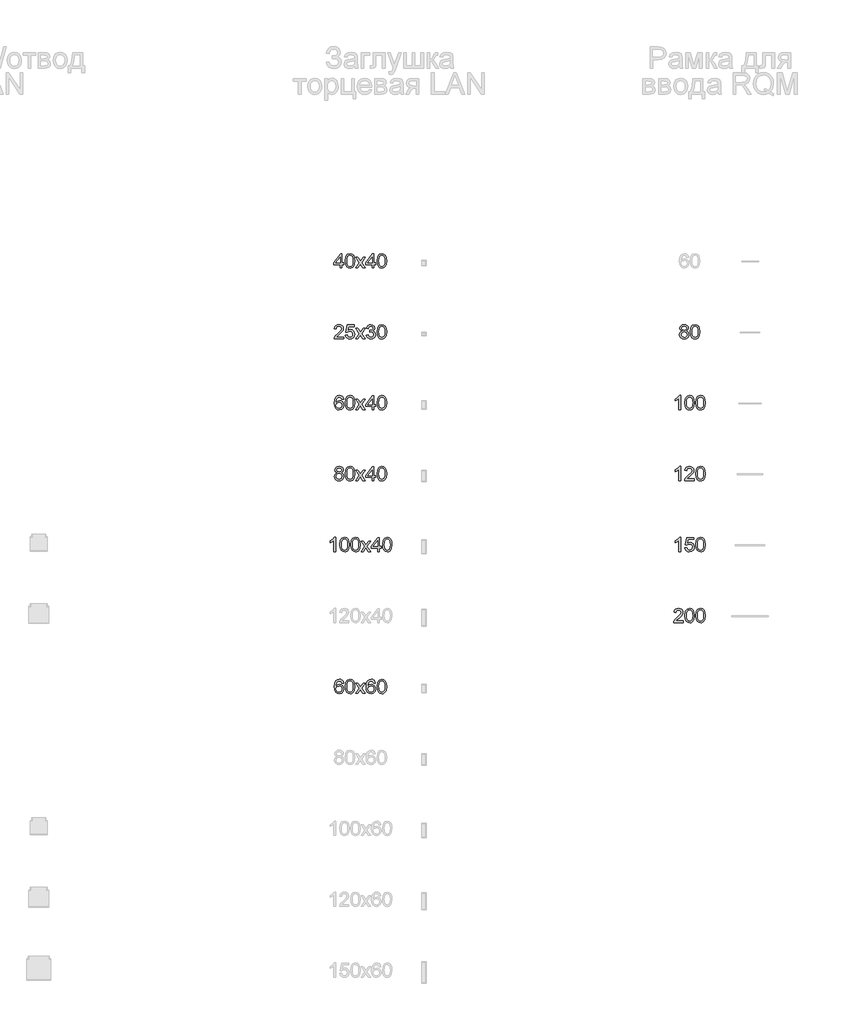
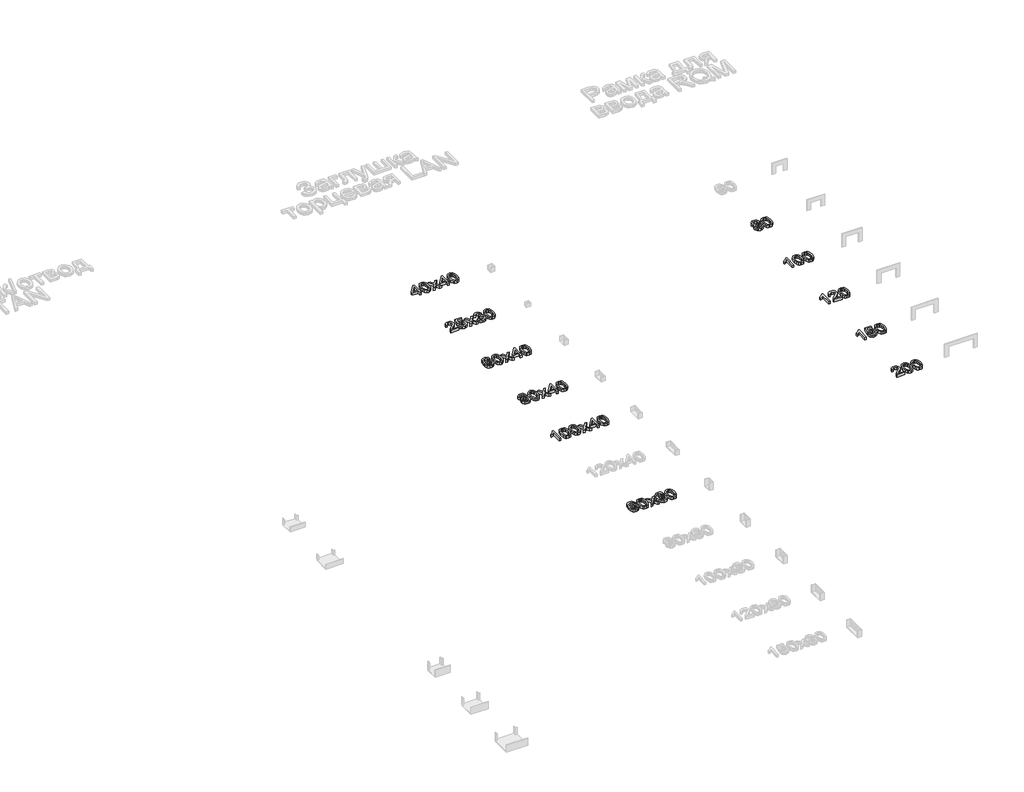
# One storey, part 27 of 28: 11 proxies.
"""IFC4 building model written with IfcOpenShell, lengths in millimetres."""

from ifc_helpers import new_model, si_unit, origin, origin_with_axes, place, context, project, spatial, polyline, outline, extrude, element, save

model = new_model("IFC4")

# Units and contexts
model_context = context("Model", 3, world=origin())
ifc_project = project(units=[si_unit("LENGTHUNIT", "METRE", prefix="MILLI")], contexts=[model_context])

# Site, building, storey
site = spatial("IfcSite", under=ifc_project)
building = spatial("IfcBuilding", under=site)
storey = spatial("IfcBuildingStorey", under=building, Name="Этаж 01", Elevation=0.0)

# Proxies
placement = place(None, origin())
element("IfcBuildingElementProxy", 1, Name="100 мм Arial", ObjectType="100 мм Arial", at=placement, inside=storey, context=model_context, shape_type="SweptSolid", body=[
    extrude(outline(polyline([(23997.2222451, 3046.6647442), (23997.2222451, 3070.2091919), (23951.7029796, 3070.2091919), (23951.7029796, 3082.7662307), (24000.3615048, 3145.5514245), (24009.7792839, 3145.5514245), (24009.7792839, 3082.7662307), (24022.3363227, 3082.7662307), (24022.3363227, 3070.2091919), (24009.7792839, 3070.2091919), (24009.7792839, 3046.6647442), (23997.2222451, 3046.6647442)]), holes=[polyline([(23997.2222451, 3082.7662307), (23997.2222451, 3121.5655184), (23967.1540234, 3082.7662307), (23997.2222451, 3082.7662307)])]), origin_with_axes(), (0.0, 0.0, 1.0), 20.0),
    extrude(outline(polyline([(24033.3237316, 3096.0835589), (24037.0148143, 3124.986821), (24047.9776977, 3141.6518754), (24066.2859583, 3147.1210543), (24080.9521872, 3143.8836928), (24091.0812048, 3134.5517528), (24096.9673167, 3119.6893202), (24099.2481851, 3096.0835589), (24095.5938906, 3067.3029241), (24084.6677954, 3050.6010815), (24076.4364357, 3046.4716062), (24066.2859583, 3045.0951144), (24053.2384103, 3047.4863473), (24043.3301218, 3054.6600462), (24035.8253291, 3071.650063), (24033.3237316, 3096.0835589)]), holes=[polyline([(24045.8807703, 3096.1080844), (24047.3522983, 3076.3558869), (24051.7668823, 3064.9239539), (24058.3397073, 3059.4701033), (24066.2859583, 3057.6521531), (24074.2322094, 3059.4762347), (24080.8050344, 3064.9484794), (24085.2196184, 3076.3865437), (24086.6911463, 3096.1080844), (24085.2686693, 3115.4157577), (24081.0012382, 3126.9365955), (24074.4406759, 3132.6571606), (24066.1388055, 3134.5640156), (24058.2783936, 3132.8840211), (24051.963086, 3127.8440378), (24047.4013493, 3115.6058301), (24045.8807703, 3096.1080844)])]), origin_with_axes(), (0.0, 0.0, 1.0), 20.0),
    extrude(outline(polyline([(24105.5267045, 3046.6647442), (24132.3575647, 3083.7472493), (24107.0963343, 3120.437347), (24122.2040216, 3120.437347), (24134.3931784, 3102.7790112), (24140.0830866, 3094.4403526), (24145.0127053, 3101.2584323), (24158.8941193, 3120.437347), (24174.0018065, 3120.437347), (24147.465252, 3083.7472493), (24173.0207879, 3046.6647442), (24157.9131006, 3046.6647442), (24142.5356332, 3068.9583931), (24139.7152046, 3073.0296205), (24120.6343918, 3046.6647442), (24105.5267045, 3046.6647442)])), origin_with_axes(), (0.0, 0.0, 1.0), 20.0),
    extrude(outline(polyline([(24221.6793131, 3046.6647442), (24221.6793131, 3070.2091919), (24176.1600476, 3070.2091919), (24176.1600476, 3082.7662307), (24224.8185728, 3145.5514245), (24234.2363519, 3145.5514245), (24234.2363519, 3082.7662307), (24246.7933906, 3082.7662307), (24246.7933906, 3070.2091919), (24234.2363519, 3070.2091919), (24234.2363519, 3046.6647442), (24221.6793131, 3046.6647442)]), holes=[polyline([(24221.6793131, 3082.7662307), (24221.6793131, 3121.5655184), (24191.6110914, 3082.7662307), (24221.6793131, 3082.7662307)])]), origin_with_axes(), (0.0, 0.0, 1.0), 20.0),
    extrude(outline(polyline([(24257.7807996, 3096.0835589), (24261.4718823, 3124.986821), (24272.4347657, 3141.6518754), (24290.7430263, 3147.1210543), (24305.4092552, 3143.8836928), (24315.5382728, 3134.5517528), (24321.4243847, 3119.6893202), (24323.7052531, 3096.0835589), (24320.0509586, 3067.3029241), (24309.1248634, 3050.6010815), (24300.8935037, 3046.4716062), (24290.7430263, 3045.0951144), (24277.6954782, 3047.4863473), (24267.7871898, 3054.6600462), (24260.2823971, 3071.650063), (24257.7807996, 3096.0835589)]), holes=[polyline([(24270.3378383, 3096.1080844), (24271.8093663, 3076.3558869), (24276.2239503, 3064.9239539), (24282.7967752, 3059.4701033), (24290.7430263, 3057.6521531), (24298.6892774, 3059.4762347), (24305.2621024, 3064.9484794), (24309.6766864, 3076.3865437), (24311.1482143, 3096.1080844), (24309.7257373, 3115.4157577), (24305.4583061, 3126.9365955), (24298.8977439, 3132.6571606), (24290.5958735, 3134.5640156), (24282.7354616, 3132.8840211), (24276.420154, 3127.8440378), (24271.8584173, 3115.6058301), (24270.3378383, 3096.1080844)])]), origin_with_axes(), (0.0, 0.0, 1.0), 20.0),
])
element("IfcBuildingElementProxy", 2, Name="100 мм Arial", ObjectType="100 мм Arial", at=placement, inside=storey, context=model_context, shape_type="SweptSolid", body=[
    extrude(outline(polyline([(24020.7666928, 2559.221783), (24020.7666928, 2546.6647442), (23954.8422393, 2546.6647442), (23956.1911399, 2555.3222338), (23963.81856, 2568.6518248), (23979.5393839, 2583.2076891), (24001.2198961, 2604.1279118), (24006.6400242, 2618.3526823), (24001.5264645, 2629.8673888), (23988.172348, 2634.5640156), (23974.2541459, 2629.9777534), (23968.9689079, 2617.2980873), (23956.4118691, 2618.8677171), (23959.4560926, 2631.0139543), (23966.0381147, 2639.8860418), (23975.8145787, 2645.3123012), (23988.4421282, 2647.1210543), (24001.1616482, 2645.1099661), (24010.9197181, 2639.0767014), (24017.1277267, 2630.0635925), (24019.197063, 2619.1129718), (24016.9652455, 2607.2058579), (24009.546292, 2594.8940738), (23991.5568624, 2577.6894591), (23977.1113627, 2565.610667), (23971.44598, 2559.221783), (24020.7666928, 2559.221783)])), origin_with_axes(), (0.0, 0.0, 1.0), 20.0),
    extrude(outline(polyline([(24033.3237316, 2573.3484516), (24045.8807703, 2574.9180814), (24052.2083407, 2561.9808979), (24065.3294652, 2557.6521531), (24074.3303113, 2559.1574036), (24081.0748146, 2563.6731551), (24085.2870634, 2570.6782414), (24086.6911463, 2579.6514964), (24081.4304338, 2594.56298), (24074.8238863, 2598.6648642), (24065.5256689, 2600.032159), (24054.5014718, 2597.8493925), (24047.4504002, 2592.1840097), (24034.8933614, 2593.7536396), (24045.8807703, 2645.5514245), (24094.5392956, 2645.5514245), (24094.5392956, 2632.9943857), (24056.0343134, 2632.9943857), (24050.6632363, 2605.3296597), (24059.6334256, 2610.7743132), (24069.0328106, 2612.5891977), (24080.7651805, 2610.3389862), (24090.5048564, 2603.5883516), (24097.0623529, 2593.2999185), (24099.2481851, 2580.4363114), (24097.2800164, 2567.8792726), (24091.3755104, 2557.1371183), (24080.0692704, 2548.1056153), (24065.2804142, 2545.0951144), (24052.9471703, 2547.0295605), (24043.1216554, 2552.832899), (24036.3863492, 2561.8306794), (24033.3237316, 2573.3484516)])), origin_with_axes(), (0.0, 0.0, 1.0), 20.0),
    extrude(outline(polyline([(24105.5267045, 2546.6647442), (24132.3575647, 2583.7472493), (24107.0963343, 2620.437347), (24122.2040216, 2620.437347), (24134.3931784, 2602.7790112), (24140.0830866, 2594.4403526), (24145.0127053, 2601.2584323), (24158.8941193, 2620.437347), (24174.0018065, 2620.437347), (24147.465252, 2583.7472493), (24173.0207879, 2546.6647442), (24157.9131006, 2546.6647442), (24142.5356332, 2568.9583931), (24139.7152046, 2573.0296205), (24120.6343918, 2546.6647442), (24105.5267045, 2546.6647442)])), origin_with_axes(), (0.0, 0.0, 1.0), 20.0),
    extrude(outline(polyline([(24180.8689371, 2573.3484516), (24193.4259759, 2574.9180814), (24200.3544201, 2561.6988551), (24213.3161291, 2557.6521531), (24221.9245678, 2559.0439733), (24228.5709692, 2563.219434), (24234.2363519, 2577.0027461), (24228.6200201, 2589.9889805), (24214.3461987, 2595.1270657), (24205.5415563, 2593.7536396), (24206.9395078, 2606.3106784), (24208.9505961, 2606.1635256), (24223.199892, 2609.7687691), (24227.9455698, 2614.3427686), (24229.5274623, 2620.8542799), (24224.9412001, 2630.6767292), (24213.1199254, 2634.5640156), (24201.1514978, 2630.639941), (24194.9956057, 2618.8677171), (24182.438567, 2620.437347), (24186.135781, 2631.7129301), (24192.7147374, 2640.1312964), (24201.7155835, 2645.3736149), (24212.678467, 2647.1210543), (24227.8229424, 2643.6752263), (24238.4179439, 2634.2574473), (24242.0845011, 2621.5900439), (24238.6018849, 2610.0140238), (24228.301189, 2601.6998907), (24241.9863992, 2593.1159775), (24246.7933906, 2576.7820169), (24244.3898949, 2564.5438092), (24237.1794078, 2554.3166897), (24226.2962321, 2547.4005082), (24212.8746707, 2545.0951144), (24200.7345649, 2547.063283), (24190.8508019, 2552.967789), (24183.97754, 2561.999292), (24180.8689371, 2573.3484516)])), origin_with_axes(), (0.0, 0.0, 1.0), 20.0),
    extrude(outline(polyline([(24257.7807996, 2596.0835589), (24261.4718823, 2624.986821), (24272.4347657, 2641.6518754), (24290.7430263, 2647.1210543), (24305.4092552, 2643.8836928), (24315.5382728, 2634.5517528), (24321.4243847, 2619.6893202), (24323.7052531, 2596.0835589), (24320.0509586, 2567.3029241), (24309.1248634, 2550.6010815), (24300.8935037, 2546.4716062), (24290.7430263, 2545.0951144), (24277.6954782, 2547.4863473), (24267.7871898, 2554.6600462), (24260.2823971, 2571.650063), (24257.7807996, 2596.0835589)]), holes=[polyline([(24270.3378383, 2596.1080844), (24271.8093663, 2576.3558869), (24276.2239503, 2564.9239539), (24282.7967752, 2559.4701033), (24290.7430263, 2557.6521531), (24298.6892774, 2559.4762347), (24305.2621024, 2564.9484794), (24309.6766864, 2576.3865437), (24311.1482143, 2596.1080844), (24309.7257373, 2615.4157577), (24305.4583061, 2626.9365955), (24298.8977439, 2632.6571606), (24290.5958735, 2634.5640156), (24282.7354616, 2632.8840211), (24276.420154, 2627.8440378), (24271.8584173, 2615.6058301), (24270.3378383, 2596.1080844)])]), origin_with_axes(), (0.0, 0.0, 1.0), 20.0),
])
element("IfcBuildingElementProxy", 3, Name="100 мм Arial", ObjectType="100 мм Arial", at=placement, inside=storey, context=model_context, shape_type="SweptSolid", body=[
    extrude(outline(polyline([(24020.7666928, 2120.437347), (24008.209654, 2118.8677171), (24003.4517136, 2129.3400912), (23990.8701493, 2134.5640156), (23979.5393839, 2131.5228578), (23970.9677334, 2120.1062532), (23967.399278, 2097.7267651), (23978.4725261, 2107.7454181), (23992.1945245, 2111.0195679), (24003.7950701, 2108.7816191), (24013.5316802, 2102.0677727), (24020.1351621, 2091.8099964), (24022.3363227, 2078.9402579), (24018.1915188, 2061.6130159), (24006.787177, 2049.3502828), (23990.3305891, 2045.0951144), (23976.0843588, 2047.915543), (23964.7382649, 2056.3768289), (23957.3162457, 2071.3128379), (23954.8422393, 2093.5574359), (23957.5890915, 2118.5672802), (23965.8296482, 2135.6676616), (23977.0807059, 2144.2577062), (23991.6549643, 2147.1210543), (24002.67303, 2145.3490894), (24011.4960665, 2140.0331946), (24017.6764841, 2131.5903028), (24020.7666928, 2120.437347)]), holes=[polyline([(23967.399278, 2079.1364616), (23970.3055458, 2068.2594173), (23978.0310677, 2060.3622172), (23989.3495704, 2057.6521531), (23997.6361124, 2059.0562361), (24004.1506894, 2063.2684849), (24008.3721353, 2069.8903608), (24009.7792839, 2078.523325), (24008.3905294, 2086.8098669), (24004.2242658, 2093.1282402), (23997.5993242, 2097.1289569), (23988.8345356, 2098.4625291), (23973.6410092, 2093.1282402), (23968.9597108, 2086.9631511), (23967.399278, 2079.1364616)])]), origin_with_axes(), (0.0, 0.0, 1.0), 20.0),
    extrude(outline(polyline([(24033.3237316, 2096.0835589), (24037.0148143, 2124.986821), (24047.9776977, 2141.6518754), (24066.2859583, 2147.1210543), (24080.9521872, 2143.8836928), (24091.0812048, 2134.5517528), (24096.9673167, 2119.6893202), (24099.2481851, 2096.0835589), (24095.5938906, 2067.3029241), (24084.6677954, 2050.6010815), (24076.4364357, 2046.4716062), (24066.2859583, 2045.0951144), (24053.2384103, 2047.4863473), (24043.3301218, 2054.6600462), (24035.8253291, 2071.650063), (24033.3237316, 2096.0835589)]), holes=[polyline([(24045.8807703, 2096.1080844), (24047.3522983, 2076.3558869), (24051.7668823, 2064.9239539), (24058.3397073, 2059.4701033), (24066.2859583, 2057.6521531), (24074.2322094, 2059.4762347), (24080.8050344, 2064.9484794), (24085.2196184, 2076.3865437), (24086.6911463, 2096.1080844), (24085.2686693, 2115.4157577), (24081.0012382, 2126.9365955), (24074.4406759, 2132.6571606), (24066.1388055, 2134.5640156), (24058.2783936, 2132.8840211), (24051.963086, 2127.8440378), (24047.4013493, 2115.6058301), (24045.8807703, 2096.1080844)])]), origin_with_axes(), (0.0, 0.0, 1.0), 20.0),
    extrude(outline(polyline([(24105.5267045, 2046.6647442), (24132.3575647, 2083.7472493), (24107.0963343, 2120.437347), (24122.2040216, 2120.437347), (24134.3931784, 2102.7790112), (24140.0830866, 2094.4403526), (24145.0127053, 2101.2584323), (24158.8941193, 2120.437347), (24174.0018065, 2120.437347), (24147.465252, 2083.7472493), (24173.0207879, 2046.6647442), (24157.9131006, 2046.6647442), (24142.5356332, 2068.9583931), (24139.7152046, 2073.0296205), (24120.6343918, 2046.6647442), (24105.5267045, 2046.6647442)])), origin_with_axes(), (0.0, 0.0, 1.0), 20.0),
    extrude(outline(polyline([(24221.6793131, 2046.6647442), (24221.6793131, 2070.2091919), (24176.1600476, 2070.2091919), (24176.1600476, 2082.7662307), (24224.8185728, 2145.5514245), (24234.2363519, 2145.5514245), (24234.2363519, 2082.7662307), (24246.7933906, 2082.7662307), (24246.7933906, 2070.2091919), (24234.2363519, 2070.2091919), (24234.2363519, 2046.6647442), (24221.6793131, 2046.6647442)]), holes=[polyline([(24221.6793131, 2082.7662307), (24221.6793131, 2121.5655184), (24191.6110914, 2082.7662307), (24221.6793131, 2082.7662307)])]), origin_with_axes(), (0.0, 0.0, 1.0), 20.0),
    extrude(outline(polyline([(24257.7807996, 2096.0835589), (24261.4718823, 2124.986821), (24272.4347657, 2141.6518754), (24290.7430263, 2147.1210543), (24305.4092552, 2143.8836928), (24315.5382728, 2134.5517528), (24321.4243847, 2119.6893202), (24323.7052531, 2096.0835589), (24320.0509586, 2067.3029241), (24309.1248634, 2050.6010815), (24300.8935037, 2046.4716062), (24290.7430263, 2045.0951144), (24277.6954782, 2047.4863473), (24267.7871898, 2054.6600462), (24260.2823971, 2071.650063), (24257.7807996, 2096.0835589)]), holes=[polyline([(24270.3378383, 2096.1080844), (24271.8093663, 2076.3558869), (24276.2239503, 2064.9239539), (24282.7967752, 2059.4701033), (24290.7430263, 2057.6521531), (24298.6892774, 2059.4762347), (24305.2621024, 2064.9484794), (24309.6766864, 2076.3865437), (24311.1482143, 2096.1080844), (24309.7257373, 2115.4157577), (24305.4583061, 2126.9365955), (24298.8977439, 2132.6571606), (24290.5958735, 2134.5640156), (24282.7354616, 2132.8840211), (24276.420154, 2127.8440378), (24271.8584173, 2115.6058301), (24270.3378383, 2096.1080844)])]), origin_with_axes(), (0.0, 0.0, 1.0), 20.0),
])
element("IfcBuildingElementProxy", 4, Name="100 мм Arial", ObjectType="100 мм Arial", at=placement, inside=storey, context=model_context, shape_type="SweptSolid", body=[
    extrude(outline(polyline([(23974.707867, 1601.9941963), (23963.266737, 1609.7932946), (23959.5511288, 1621.9334004), (23961.5744798, 1631.7497183), (23967.6445327, 1639.8615163), (23977.0807059, 1645.3061698), (23989.2024176, 1647.1210543), (24001.3977058, 1645.2632503), (24010.9565063, 1639.689838), (24017.1369238, 1631.4492814), (24019.197063, 1621.5900439), (24015.5305057, 1609.7565064), (24004.4082068, 1601.9941963), (24017.7623232, 1592.1472215), (24022.3363227, 1575.8991001), (24020.067717, 1563.8938843), (24013.2619001, 1553.9733332), (24002.7527378, 1547.3146691), (23989.3740959, 1545.0951144), (23975.995454, 1547.3238661), (23965.4862917, 1554.0101214), (23958.6804748, 1564.0257087), (23956.4118691, 1576.2424566), (23961.1698096, 1592.8707228), (23974.707867, 1601.9941963)]), holes=[polyline([(23972.1081676, 1621.5655184), (23976.5595397, 1611.7062809), (23989.5212487, 1607.8803082), (24002.2254403, 1611.6817555), (24006.6400242, 1621.0014327), (24002.0782875, 1630.6522037), (23989.3740959, 1634.5640156), (23976.6331161, 1630.7380428), (23972.1081676, 1621.5655184)]), polyline([(23968.9689079, 1576.683915), (23971.0658353, 1567.2293477), (23978.4847888, 1560.1537507), (23989.4721978, 1557.6521531), (23998.0193228, 1558.9673313), (24004.4327322, 1562.9128657), (24009.7792839, 1576.2915075), (24004.261054, 1589.9276668), (23997.7004917, 1593.9743688), (23989.0552648, 1595.3232694), (23980.6277015, 1593.9927629), (23974.2786714, 1590.0012432), (23968.9689079, 1576.683915)])]), origin_with_axes(), (0.0, 0.0, 1.0), 20.0),
    extrude(outline(polyline([(24033.3237316, 1596.0835589), (24037.0148143, 1624.986821), (24047.9776977, 1641.6518754), (24066.2859583, 1647.1210543), (24080.9521872, 1643.8836928), (24091.0812048, 1634.5517528), (24096.9673167, 1619.6893202), (24099.2481851, 1596.0835589), (24095.5938906, 1567.3029241), (24084.6677954, 1550.6010815), (24076.4364357, 1546.4716062), (24066.2859583, 1545.0951144), (24053.2384103, 1547.4863473), (24043.3301218, 1554.6600462), (24035.8253291, 1571.650063), (24033.3237316, 1596.0835589)]), holes=[polyline([(24045.8807703, 1596.1080844), (24047.3522983, 1576.3558869), (24051.7668823, 1564.9239539), (24058.3397073, 1559.4701033), (24066.2859583, 1557.6521531), (24074.2322094, 1559.4762347), (24080.8050344, 1564.9484794), (24085.2196184, 1576.3865437), (24086.6911463, 1596.1080844), (24085.2686693, 1615.4157577), (24081.0012382, 1626.9365955), (24074.4406759, 1632.6571606), (24066.1388055, 1634.5640156), (24058.2783936, 1632.8840211), (24051.963086, 1627.8440378), (24047.4013493, 1615.6058301), (24045.8807703, 1596.1080844)])]), origin_with_axes(), (0.0, 0.0, 1.0), 20.0),
    extrude(outline(polyline([(24105.5267045, 1546.6647442), (24132.3575647, 1583.7472493), (24107.0963343, 1620.437347), (24122.2040216, 1620.437347), (24134.3931784, 1602.7790112), (24140.0830866, 1594.4403526), (24145.0127053, 1601.2584323), (24158.8941193, 1620.437347), (24174.0018065, 1620.437347), (24147.465252, 1583.7472493), (24173.0207879, 1546.6647442), (24157.9131006, 1546.6647442), (24142.5356332, 1568.9583931), (24139.7152046, 1573.0296205), (24120.6343918, 1546.6647442), (24105.5267045, 1546.6647442)])), origin_with_axes(), (0.0, 0.0, 1.0), 20.0),
    extrude(outline(polyline([(24221.6793131, 1546.6647442), (24221.6793131, 1570.2091919), (24176.1600476, 1570.2091919), (24176.1600476, 1582.7662307), (24224.8185728, 1645.5514245), (24234.2363519, 1645.5514245), (24234.2363519, 1582.7662307), (24246.7933906, 1582.7662307), (24246.7933906, 1570.2091919), (24234.2363519, 1570.2091919), (24234.2363519, 1546.6647442), (24221.6793131, 1546.6647442)]), holes=[polyline([(24221.6793131, 1582.7662307), (24221.6793131, 1621.5655184), (24191.6110914, 1582.7662307), (24221.6793131, 1582.7662307)])]), origin_with_axes(), (0.0, 0.0, 1.0), 20.0),
    extrude(outline(polyline([(24257.7807996, 1596.0835589), (24261.4718823, 1624.986821), (24272.4347657, 1641.6518754), (24290.7430263, 1647.1210543), (24305.4092552, 1643.8836928), (24315.5382728, 1634.5517528), (24321.4243847, 1619.6893202), (24323.7052531, 1596.0835589), (24320.0509586, 1567.3029241), (24309.1248634, 1550.6010815), (24300.8935037, 1546.4716062), (24290.7430263, 1545.0951144), (24277.6954782, 1547.4863473), (24267.7871898, 1554.6600462), (24260.2823971, 1571.650063), (24257.7807996, 1596.0835589)]), holes=[polyline([(24270.3378383, 1596.1080844), (24271.8093663, 1576.3558869), (24276.2239503, 1564.9239539), (24282.7967752, 1559.4701033), (24290.7430263, 1557.6521531), (24298.6892774, 1559.4762347), (24305.2621024, 1564.9484794), (24309.6766864, 1576.3865437), (24311.1482143, 1596.1080844), (24309.7257373, 1615.4157577), (24305.4583061, 1626.9365955), (24298.8977439, 1632.6571606), (24290.5958735, 1634.5640156), (24282.7354616, 1632.8840211), (24276.420154, 1627.8440378), (24271.8584173, 1615.6058301), (24270.3378383, 1596.1080844)])]), origin_with_axes(), (0.0, 0.0, 1.0), 20.0),
])
element("IfcBuildingElementProxy", 5, Name="100 мм Arial", ObjectType="100 мм Arial", at=placement, inside=storey, context=model_context, shape_type="SweptSolid", body=[
    extrude(outline(polyline([(23965.0448333, 1046.6647442), (23952.4877945, 1046.6647442), (23952.4877945, 1124.9500328), (23940.5929433, 1116.4764842), (23927.373717, 1110.1366511), (23927.373717, 1122.0069768), (23945.7800795, 1133.7546752), (23956.9514294, 1147.1210543), (23965.0448333, 1147.1210543), (23965.0448333, 1046.6647442)])), origin_with_axes(), (0.0, 0.0, 1.0), 20.0),
    extrude(outline(polyline([(23994.8678004, 1096.0835589), (23998.558883, 1124.986821), (24009.5217665, 1141.6518754), (24027.8300271, 1147.1210543), (24042.496256, 1143.8836928), (24052.6252736, 1134.5517528), (24058.5113855, 1119.6893202), (24060.7922539, 1096.0835589), (24057.1379594, 1067.3029241), (24046.2118641, 1050.6010815), (24037.9805045, 1046.4716062), (24027.8300271, 1045.0951144), (24014.782479, 1047.4863473), (24004.8741906, 1054.6600462), (23997.3693979, 1071.650063), (23994.8678004, 1096.0835589)]), holes=[polyline([(24007.4248391, 1096.1080844), (24008.8963671, 1076.3558869), (24013.310951, 1064.9239539), (24019.883776, 1059.4701033), (24027.8300271, 1057.6521531), (24035.7762782, 1059.4762347), (24042.3491032, 1064.9484794), (24046.7636871, 1076.3865437), (24048.2352151, 1096.1080844), (24046.8127381, 1115.4157577), (24042.5453069, 1126.9365955), (24035.9847447, 1132.6571606), (24027.6828743, 1134.5640156), (24019.8224624, 1132.8840211), (24013.5071548, 1127.8440378), (24008.945418, 1115.6058301), (24007.4248391, 1096.1080844)])]), origin_with_axes(), (0.0, 0.0, 1.0), 20.0),
    extrude(outline(polyline([(24071.7796628, 1096.0835589), (24075.4707455, 1124.986821), (24086.433629, 1141.6518754), (24104.7418896, 1147.1210543), (24119.4081185, 1143.8836928), (24129.5371361, 1134.5517528), (24135.423248, 1119.6893202), (24137.7041163, 1096.0835589), (24134.0498219, 1067.3029241), (24123.1237266, 1050.6010815), (24114.892367, 1046.4716062), (24104.7418896, 1045.0951144), (24091.6943415, 1047.4863473), (24081.7860531, 1054.6600462), (24074.2812604, 1071.650063), (24071.7796628, 1096.0835589)]), holes=[polyline([(24084.3367016, 1096.1080844), (24085.8082296, 1076.3558869), (24090.2228135, 1064.9239539), (24096.7956385, 1059.4701033), (24104.7418896, 1057.6521531), (24112.6881407, 1059.4762347), (24119.2609657, 1064.9484794), (24123.6755496, 1076.3865437), (24125.1470776, 1096.1080844), (24123.7246005, 1115.4157577), (24119.4571694, 1126.9365955), (24112.8966071, 1132.6571606), (24104.5947368, 1134.5640156), (24096.7343248, 1132.8840211), (24090.4190172, 1127.8440378), (24085.8572805, 1115.6058301), (24084.3367016, 1096.1080844)])]), origin_with_axes(), (0.0, 0.0, 1.0), 20.0),
    extrude(outline(polyline([(24143.9826357, 1046.6647442), (24170.8134959, 1083.7472493), (24145.5522656, 1120.437347), (24160.6599528, 1120.437347), (24172.8491096, 1102.7790112), (24178.5390178, 1094.4403526), (24183.4686365, 1101.2584323), (24197.3500505, 1120.437347), (24212.4577378, 1120.437347), (24185.9211832, 1083.7472493), (24211.4767191, 1046.6647442), (24196.3690318, 1046.6647442), (24180.9915644, 1068.9583931), (24178.1711358, 1073.0296205), (24159.090323, 1046.6647442), (24143.9826357, 1046.6647442)])), origin_with_axes(), (0.0, 0.0, 1.0), 20.0),
    extrude(outline(polyline([(24260.1352443, 1046.6647442), (24260.1352443, 1070.2091919), (24214.6159788, 1070.2091919), (24214.6159788, 1082.7662307), (24263.274504, 1145.5514245), (24272.6922831, 1145.5514245), (24272.6922831, 1082.7662307), (24285.2493219, 1082.7662307), (24285.2493219, 1070.2091919), (24272.6922831, 1070.2091919), (24272.6922831, 1046.6647442), (24260.1352443, 1046.6647442)]), holes=[polyline([(24260.1352443, 1082.7662307), (24260.1352443, 1121.5655184), (24230.0670226, 1082.7662307), (24260.1352443, 1082.7662307)])]), origin_with_axes(), (0.0, 0.0, 1.0), 20.0),
    extrude(outline(polyline([(24296.2367308, 1096.0835589), (24299.9278135, 1124.986821), (24310.8906969, 1141.6518754), (24329.1989576, 1147.1210543), (24343.8651864, 1143.8836928), (24353.994204, 1134.5517528), (24359.880316, 1119.6893202), (24362.1611843, 1096.0835589), (24358.5068898, 1067.3029241), (24347.5807946, 1050.6010815), (24339.349435, 1046.4716062), (24329.1989576, 1045.0951144), (24316.1514095, 1047.4863473), (24306.2431211, 1054.6600462), (24298.7383284, 1071.650063), (24296.2367308, 1096.0835589)]), holes=[polyline([(24308.7937696, 1096.1080844), (24310.2652975, 1076.3558869), (24314.6798815, 1064.9239539), (24321.2527065, 1059.4701033), (24329.1989576, 1057.6521531), (24337.1452087, 1059.4762347), (24343.7180336, 1064.9484794), (24348.1326176, 1076.3865437), (24349.6041456, 1096.1080844), (24348.1816685, 1115.4157577), (24343.9142374, 1126.9365955), (24337.3536751, 1132.6571606), (24329.0518048, 1134.5640156), (24321.1913928, 1132.8840211), (24314.8760852, 1127.8440378), (24310.3143485, 1115.6058301), (24308.7937696, 1096.1080844)])]), origin_with_axes(), (0.0, 0.0, 1.0), 20.0),
])
element("IfcBuildingElementProxy", 6, Name="100 мм Arial", ObjectType="100 мм Arial", at=placement, inside=storey, context=model_context, shape_type="SweptSolid", body=[
    extrude(outline(polyline([(24020.7666928, 120.437347), (24008.209654, 118.8677171), (24003.4517136, 129.3400912), (23990.8701493, 134.5640156), (23979.5393839, 131.5228578), (23970.9677334, 120.1062532), (23967.399278, 97.7267651), (23978.4725261, 107.7454181), (23992.1945245, 111.0195679), (24003.7950701, 108.7816191), (24013.5316802, 102.0677727), (24020.1351621, 91.8099964), (24022.3363227, 78.9402579), (24018.1915188, 61.6130159), (24006.787177, 49.3502828), (23990.3305891, 45.0951144), (23976.0843588, 47.915543), (23964.7382649, 56.3768289), (23957.3162457, 71.3128379), (23954.8422393, 93.5574359), (23957.5890915, 118.5672802), (23965.8296482, 135.6676616), (23977.0807059, 144.2577062), (23991.6549643, 147.1210543), (24002.67303, 145.3490894), (24011.4960665, 140.0331946), (24017.6764841, 131.5903028), (24020.7666928, 120.437347)]), holes=[polyline([(23967.399278, 79.1364616), (23970.3055458, 68.2594173), (23978.0310677, 60.3622172), (23989.3495704, 57.6521531), (23997.6361124, 59.0562361), (24004.1506894, 63.2684849), (24008.3721353, 69.8903608), (24009.7792839, 78.523325), (24008.3905294, 86.8098669), (24004.2242658, 93.1282402), (23997.5993242, 97.1289569), (23988.8345356, 98.4625291), (23973.6410092, 93.1282402), (23968.9597108, 86.9631511), (23967.399278, 79.1364616)])]), origin_with_axes(), (0.0, 0.0, 1.0), 20.0),
    extrude(outline(polyline([(24033.3237316, 96.0835589), (24037.0148143, 124.986821), (24047.9776977, 141.6518754), (24066.2859583, 147.1210543), (24080.9521872, 143.8836928), (24091.0812048, 134.5517528), (24096.9673167, 119.6893202), (24099.2481851, 96.0835589), (24095.5938906, 67.3029241), (24084.6677954, 50.6010815), (24076.4364357, 46.4716062), (24066.2859583, 45.0951144), (24053.2384103, 47.4863473), (24043.3301218, 54.6600462), (24035.8253291, 71.650063), (24033.3237316, 96.0835589)]), holes=[polyline([(24045.8807703, 96.1080844), (24047.3522983, 76.3558869), (24051.7668823, 64.9239539), (24058.3397073, 59.4701033), (24066.2859583, 57.6521531), (24074.2322094, 59.4762347), (24080.8050344, 64.9484794), (24085.2196184, 76.3865437), (24086.6911463, 96.1080844), (24085.2686693, 115.4157577), (24081.0012382, 126.9365955), (24074.4406759, 132.6571606), (24066.1388055, 134.5640156), (24058.2783936, 132.8840211), (24051.963086, 127.8440378), (24047.4013493, 115.6058301), (24045.8807703, 96.1080844)])]), origin_with_axes(), (0.0, 0.0, 1.0), 20.0),
    extrude(outline(polyline([(24105.5267045, 46.6647442), (24132.3575647, 83.7472493), (24107.0963343, 120.437347), (24122.2040216, 120.437347), (24134.3931784, 102.7790112), (24140.0830866, 94.4403526), (24145.0127053, 101.2584323), (24158.8941193, 120.437347), (24174.0018065, 120.437347), (24147.465252, 83.7472493), (24173.0207879, 46.6647442), (24157.9131006, 46.6647442), (24142.5356332, 68.9583931), (24139.7152046, 73.0296205), (24120.6343918, 46.6647442), (24105.5267045, 46.6647442)])), origin_with_axes(), (0.0, 0.0, 1.0), 20.0),
    extrude(outline(polyline([(24245.2237608, 120.437347), (24232.666722, 118.8677171), (24227.9087816, 129.3400912), (24215.3272173, 134.5640156), (24203.9964519, 131.5228578), (24195.4248014, 120.1062532), (24191.856346, 97.7267651), (24202.9295941, 107.7454181), (24216.6515925, 111.0195679), (24228.2521381, 108.7816191), (24237.9887482, 102.0677727), (24244.59223, 91.8099964), (24246.7933906, 78.9402579), (24242.6485868, 61.6130159), (24231.244245, 49.3502828), (24214.7876571, 45.0951144), (24200.5414268, 47.915543), (24189.1953329, 56.3768289), (24181.7733137, 71.3128379), (24179.2993073, 93.5574359), (24182.0461595, 118.5672802), (24190.2867162, 135.6676616), (24201.5377739, 144.2577062), (24216.1120323, 147.1210543), (24227.130098, 145.3490894), (24235.9531345, 140.0331946), (24242.133552, 131.5903028), (24245.2237608, 120.437347)]), holes=[polyline([(24191.856346, 79.1364616), (24194.7626138, 68.2594173), (24202.4881357, 60.3622172), (24213.8066384, 57.6521531), (24222.0931804, 59.0562361), (24228.6077574, 63.2684849), (24232.8292032, 69.8903608), (24234.2363519, 78.523325), (24232.8475973, 86.8098669), (24228.6813338, 93.1282402), (24222.0563922, 97.1289569), (24213.2916036, 98.4625291), (24198.0980772, 93.1282402), (24193.4167788, 86.9631511), (24191.856346, 79.1364616)])]), origin_with_axes(), (0.0, 0.0, 1.0), 20.0),
    extrude(outline(polyline([(24257.7807996, 96.0835589), (24261.4718823, 124.986821), (24272.4347657, 141.6518754), (24290.7430263, 147.1210543), (24305.4092552, 143.8836928), (24315.5382728, 134.5517528), (24321.4243847, 119.6893202), (24323.7052531, 96.0835589), (24320.0509586, 67.3029241), (24309.1248634, 50.6010815), (24300.8935037, 46.4716062), (24290.7430263, 45.0951144), (24277.6954782, 47.4863473), (24267.7871898, 54.6600462), (24260.2823971, 71.650063), (24257.7807996, 96.0835589)]), holes=[polyline([(24270.3378383, 96.1080844), (24271.8093663, 76.3558869), (24276.2239503, 64.9239539), (24282.7967752, 59.4701033), (24290.7430263, 57.6521531), (24298.6892774, 59.4762347), (24305.2621024, 64.9484794), (24309.6766864, 76.3865437), (24311.1482143, 96.1080844), (24309.7257373, 115.4157577), (24305.4583061, 126.9365955), (24298.8977439, 132.6571606), (24290.5958735, 134.5640156), (24282.7354616, 132.8840211), (24276.420154, 127.8440378), (24271.8584173, 115.6058301), (24270.3378383, 96.1080844)])]), origin_with_axes(), (0.0, 0.0, 1.0), 20.0),
])
element("IfcBuildingElementProxy", 7, Name="100 мм Arial", ObjectType="100 мм Arial", at=placement, inside=storey, context=model_context, shape_type="SweptSolid", body=[
    extrude(outline(polyline([(26406.936401, 2601.9941963), (26395.495271, 2609.7932946), (26391.7796628, 2621.9334004), (26393.8030138, 2631.7497183), (26399.8730667, 2639.8615163), (26409.3092399, 2645.3061698), (26421.4309516, 2647.1210543), (26433.6262398, 2645.2632503), (26443.1850403, 2639.689838), (26449.3654578, 2631.4492814), (26451.425597, 2621.5900439), (26447.7590397, 2609.7565064), (26436.6367408, 2601.9941963), (26449.9908572, 2592.1472215), (26454.5648567, 2575.8991001), (26452.296251, 2563.8938843), (26445.4904341, 2553.9733332), (26434.9812718, 2547.3146691), (26421.6026299, 2545.0951144), (26408.223988, 2547.3238661), (26397.7148257, 2554.0101214), (26390.9090088, 2564.0257087), (26388.6404031, 2576.2424566), (26393.3983436, 2592.8707228), (26406.936401, 2601.9941963)]), holes=[polyline([(26404.3367016, 2621.5655184), (26408.7880737, 2611.7062809), (26421.7497827, 2607.8803082), (26434.4539742, 2611.6817555), (26438.8685582, 2621.0014327), (26434.3068215, 2630.6522037), (26421.6026299, 2634.5640156), (26408.8616501, 2630.7380428), (26404.3367016, 2621.5655184)]), polyline([(26401.1974419, 2576.683915), (26403.2943693, 2567.2293477), (26410.7133228, 2560.1537507), (26421.7007318, 2557.6521531), (26430.2478568, 2558.9673313), (26436.6612662, 2562.9128657), (26442.0078179, 2576.2915075), (26436.489588, 2589.9276668), (26429.9290257, 2593.9743688), (26421.2837988, 2595.3232694), (26412.8562354, 2593.9927629), (26406.5072053, 2590.0012432), (26401.1974419, 2576.683915)])]), origin_with_axes(), (0.0, 0.0, 1.0), 20.0),
    extrude(outline(polyline([(26465.5522656, 2596.0835589), (26469.2433483, 2624.986821), (26480.2062317, 2641.6518754), (26498.5144923, 2647.1210543), (26513.1807212, 2643.8836928), (26523.3097388, 2634.5517528), (26529.1958507, 2619.6893202), (26531.4767191, 2596.0835589), (26527.8224246, 2567.3029241), (26516.8963294, 2550.6010815), (26508.6649697, 2546.4716062), (26498.5144923, 2545.0951144), (26485.4669442, 2547.4863473), (26475.5586558, 2554.6600462), (26468.0538631, 2571.650063), (26465.5522656, 2596.0835589)]), holes=[polyline([(26478.1093043, 2596.1080844), (26479.5808323, 2576.3558869), (26483.9954163, 2564.9239539), (26490.5682412, 2559.4701033), (26498.5144923, 2557.6521531), (26506.4607434, 2559.4762347), (26513.0335684, 2564.9484794), (26517.4481524, 2576.3865437), (26518.9196803, 2596.1080844), (26517.4972033, 2615.4157577), (26513.2297722, 2626.9365955), (26506.6692099, 2632.6571606), (26498.3673395, 2634.5640156), (26490.5069276, 2632.8840211), (26484.19162, 2627.8440378), (26479.6298833, 2615.6058301), (26478.1093043, 2596.1080844)])]), origin_with_axes(), (0.0, 0.0, 1.0), 20.0),
])
element("IfcBuildingElementProxy", 8, Name="100 мм Arial", ObjectType="100 мм Arial", at=placement, inside=storey, context=model_context, shape_type="SweptSolid", body=[
    extrude(outline(polyline([(26397.2733673, 2046.6647442), (26384.7163285, 2046.6647442), (26384.7163285, 2124.9500328), (26372.8214773, 2116.4764842), (26359.602251, 2110.1366511), (26359.602251, 2122.0069768), (26378.0086135, 2133.7546752), (26389.1799634, 2147.1210543), (26397.2733673, 2147.1210543), (26397.2733673, 2046.6647442)])), origin_with_axes(), (0.0, 0.0, 1.0), 20.0),
    extrude(outline(polyline([(26427.0963343, 2096.0835589), (26430.787417, 2124.986821), (26441.7503005, 2141.6518754), (26460.0585611, 2147.1210543), (26474.72479, 2143.8836928), (26484.8538076, 2134.5517528), (26490.7399195, 2119.6893202), (26493.0207879, 2096.0835589), (26489.3664934, 2067.3029241), (26478.4403981, 2050.6010815), (26470.2090385, 2046.4716062), (26460.0585611, 2045.0951144), (26447.011013, 2047.4863473), (26437.1027246, 2054.6600462), (26429.5979319, 2071.650063), (26427.0963343, 2096.0835589)]), holes=[polyline([(26439.6533731, 2096.1080844), (26441.1249011, 2076.3558869), (26445.539485, 2064.9239539), (26452.11231, 2059.4701033), (26460.0585611, 2057.6521531), (26468.0048122, 2059.4762347), (26474.5776372, 2064.9484794), (26478.9922211, 2076.3865437), (26480.4637491, 2096.1080844), (26479.0412721, 2115.4157577), (26474.7738409, 2126.9365955), (26468.2132787, 2132.6571606), (26459.9114083, 2134.5640156), (26452.0509964, 2132.8840211), (26445.7356888, 2127.8440378), (26441.173952, 2115.6058301), (26439.6533731, 2096.1080844)])]), origin_with_axes(), (0.0, 0.0, 1.0), 20.0),
    extrude(outline(polyline([(26504.0081968, 2096.0835589), (26507.6992795, 2124.986821), (26518.6621629, 2141.6518754), (26536.9704236, 2147.1210543), (26551.6366524, 2143.8836928), (26561.76567, 2134.5517528), (26567.651782, 2119.6893202), (26569.9326503, 2096.0835589), (26566.2783559, 2067.3029241), (26555.3522606, 2050.6010815), (26547.120901, 2046.4716062), (26536.9704236, 2045.0951144), (26523.9228755, 2047.4863473), (26514.0145871, 2054.6600462), (26506.5097944, 2071.650063), (26504.0081968, 2096.0835589)]), holes=[polyline([(26516.5652356, 2096.1080844), (26518.0367636, 2076.3558869), (26522.4513475, 2064.9239539), (26529.0241725, 2059.4701033), (26536.9704236, 2057.6521531), (26544.9166747, 2059.4762347), (26551.4894996, 2064.9484794), (26555.9040836, 2076.3865437), (26557.3756116, 2096.1080844), (26555.9531345, 2115.4157577), (26551.6857034, 2126.9365955), (26545.1251411, 2132.6571606), (26536.8232708, 2134.5640156), (26528.9628588, 2132.8840211), (26522.6475512, 2127.8440378), (26518.0858145, 2115.6058301), (26516.5652356, 2096.1080844)])]), origin_with_axes(), (0.0, 0.0, 1.0), 20.0),
])
element("IfcBuildingElementProxy", 9, Name="100 мм Arial", ObjectType="100 мм Arial", at=placement, inside=storey, context=model_context, shape_type="SweptSolid", body=[
    extrude(outline(polyline([(26397.2733673, 1546.6647442), (26384.7163285, 1546.6647442), (26384.7163285, 1624.9500328), (26372.8214773, 1616.4764842), (26359.602251, 1610.1366511), (26359.602251, 1622.0069768), (26378.0086135, 1633.7546752), (26389.1799634, 1647.1210543), (26397.2733673, 1647.1210543), (26397.2733673, 1546.6647442)])), origin_with_axes(), (0.0, 0.0, 1.0), 20.0),
    extrude(outline(polyline([(26491.451158, 1559.221783), (26491.451158, 1546.6647442), (26425.5267045, 1546.6647442), (26426.8756051, 1555.3222338), (26434.5030252, 1568.6518248), (26450.2238491, 1583.2076891), (26471.9043614, 1604.1279118), (26477.3244894, 1618.3526823), (26472.2109297, 1629.8673888), (26458.8568133, 1634.5640156), (26444.9386111, 1629.9777534), (26439.6533731, 1617.2980873), (26427.0963343, 1618.8677171), (26430.1405579, 1631.0139543), (26436.7225799, 1639.8860418), (26446.4990439, 1645.3123012), (26459.1265934, 1647.1210543), (26471.8461134, 1645.1099661), (26481.6041833, 1639.0767014), (26487.812192, 1630.0635925), (26489.8815282, 1619.1129718), (26487.6497108, 1607.2058579), (26480.2307572, 1594.8940738), (26462.2413276, 1577.6894591), (26447.7958279, 1565.610667), (26442.1304452, 1559.221783), (26491.451158, 1559.221783)])), origin_with_axes(), (0.0, 0.0, 1.0), 20.0),
    extrude(outline(polyline([(26504.0081968, 1596.0835589), (26507.6992795, 1624.986821), (26518.6621629, 1641.6518754), (26536.9704236, 1647.1210543), (26551.6366524, 1643.8836928), (26561.76567, 1634.5517528), (26567.651782, 1619.6893202), (26569.9326503, 1596.0835589), (26566.2783559, 1567.3029241), (26555.3522606, 1550.6010815), (26547.120901, 1546.4716062), (26536.9704236, 1545.0951144), (26523.9228755, 1547.4863473), (26514.0145871, 1554.6600462), (26506.5097944, 1571.650063), (26504.0081968, 1596.0835589)]), holes=[polyline([(26516.5652356, 1596.1080844), (26518.0367636, 1576.3558869), (26522.4513475, 1564.9239539), (26529.0241725, 1559.4701033), (26536.9704236, 1557.6521531), (26544.9166747, 1559.4762347), (26551.4894996, 1564.9484794), (26555.9040836, 1576.3865437), (26557.3756116, 1596.1080844), (26555.9531345, 1615.4157577), (26551.6857034, 1626.9365955), (26545.1251411, 1632.6571606), (26536.8232708, 1634.5640156), (26528.9628588, 1632.8840211), (26522.6475512, 1627.8440378), (26518.0858145, 1615.6058301), (26516.5652356, 1596.1080844)])]), origin_with_axes(), (0.0, 0.0, 1.0), 20.0),
])
element("IfcBuildingElementProxy", 10, Name="100 мм Arial", ObjectType="100 мм Arial", at=placement, inside=storey, context=model_context, shape_type="SweptSolid", body=[
    extrude(outline(polyline([(26397.2733673, 1046.6647442), (26384.7163285, 1046.6647442), (26384.7163285, 1124.9500328), (26372.8214773, 1116.4764842), (26359.602251, 1110.1366511), (26359.602251, 1122.0069768), (26378.0086135, 1133.7546752), (26389.1799634, 1147.1210543), (26397.2733673, 1147.1210543), (26397.2733673, 1046.6647442)])), origin_with_axes(), (0.0, 0.0, 1.0), 20.0),
    extrude(outline(polyline([(26427.0963343, 1073.3484516), (26439.6533731, 1074.9180814), (26445.9809434, 1061.9808979), (26459.1020679, 1057.6521531), (26468.1029141, 1059.1574036), (26474.8474173, 1063.6731551), (26479.0596662, 1070.6782414), (26480.4637491, 1079.6514964), (26475.2030366, 1094.56298), (26468.5964891, 1098.6648642), (26459.2982717, 1100.032159), (26448.2740745, 1097.8493925), (26441.223003, 1092.1840097), (26428.6659642, 1093.7536396), (26439.6533731, 1145.5514245), (26488.3118983, 1145.5514245), (26488.3118983, 1132.9943857), (26449.8069162, 1132.9943857), (26444.4358391, 1105.3296597), (26453.4060284, 1110.7743132), (26462.8054133, 1112.5891977), (26474.5377833, 1110.3389862), (26484.2774591, 1103.5883516), (26490.8349557, 1093.2999185), (26493.0207879, 1080.4363114), (26491.0526192, 1067.8792726), (26485.1481132, 1057.1371183), (26473.8418732, 1048.1056153), (26459.053017, 1045.0951144), (26446.7197731, 1047.0295605), (26436.8942582, 1052.832899), (26430.158952, 1061.8306794), (26427.0963343, 1073.3484516)])), origin_with_axes(), (0.0, 0.0, 1.0), 20.0),
    extrude(outline(polyline([(26504.0081968, 1096.0835589), (26507.6992795, 1124.986821), (26518.6621629, 1141.6518754), (26536.9704236, 1147.1210543), (26551.6366524, 1143.8836928), (26561.76567, 1134.5517528), (26567.651782, 1119.6893202), (26569.9326503, 1096.0835589), (26566.2783559, 1067.3029241), (26555.3522606, 1050.6010815), (26547.120901, 1046.4716062), (26536.9704236, 1045.0951144), (26523.9228755, 1047.4863473), (26514.0145871, 1054.6600462), (26506.5097944, 1071.650063), (26504.0081968, 1096.0835589)]), holes=[polyline([(26516.5652356, 1096.1080844), (26518.0367636, 1076.3558869), (26522.4513475, 1064.9239539), (26529.0241725, 1059.4701033), (26536.9704236, 1057.6521531), (26544.9166747, 1059.4762347), (26551.4894996, 1064.9484794), (26555.9040836, 1076.3865437), (26557.3756116, 1096.1080844), (26555.9531345, 1115.4157577), (26551.6857034, 1126.9365955), (26545.1251411, 1132.6571606), (26536.8232708, 1134.5640156), (26528.9628588, 1132.8840211), (26522.6475512, 1127.8440378), (26518.0858145, 1115.6058301), (26516.5652356, 1096.1080844)])]), origin_with_axes(), (0.0, 0.0, 1.0), 20.0),
])
element("IfcBuildingElementProxy", 11, Name="100 мм Arial", ObjectType="100 мм Arial", at=placement, inside=storey, context=model_context, shape_type="SweptSolid", body=[
    extrude(outline(polyline([(26414.5392956, 559.221783), (26414.5392956, 546.6647442), (26348.614842, 546.6647442), (26349.9637427, 555.3222338), (26357.5911627, 568.6518248), (26373.3119867, 583.2076891), (26394.9924989, 604.1279118), (26400.412627, 618.3526823), (26395.2990672, 629.8673888), (26381.9449508, 634.5640156), (26368.0267487, 629.9777534), (26362.7415107, 617.2980873), (26350.1844719, 618.8677171), (26353.2286954, 631.0139543), (26359.8107174, 639.8860418), (26369.5871815, 645.3123012), (26382.2147309, 647.1210543), (26394.9342509, 645.1099661), (26404.6923208, 639.0767014), (26410.9003295, 630.0635925), (26412.9696657, 619.1129718), (26410.7378483, 607.2058579), (26403.3188947, 594.8940738), (26385.3294652, 577.6894591), (26370.8839655, 565.610667), (26365.2185828, 559.221783), (26414.5392956, 559.221783)])), origin_with_axes(), (0.0, 0.0, 1.0), 20.0),
    extrude(outline(polyline([(26427.0963343, 596.0835589), (26430.787417, 624.986821), (26441.7503005, 641.6518754), (26460.0585611, 647.1210543), (26474.72479, 643.8836928), (26484.8538076, 634.5517528), (26490.7399195, 619.6893202), (26493.0207879, 596.0835589), (26489.3664934, 567.3029241), (26478.4403981, 550.6010815), (26470.2090385, 546.4716062), (26460.0585611, 545.0951144), (26447.011013, 547.4863473), (26437.1027246, 554.6600462), (26429.5979319, 571.650063), (26427.0963343, 596.0835589)]), holes=[polyline([(26439.6533731, 596.1080844), (26441.1249011, 576.3558869), (26445.539485, 564.9239539), (26452.11231, 559.4701033), (26460.0585611, 557.6521531), (26468.0048122, 559.4762347), (26474.5776372, 564.9484794), (26478.9922211, 576.3865437), (26480.4637491, 596.1080844), (26479.0412721, 615.4157577), (26474.7738409, 626.9365955), (26468.2132787, 632.6571606), (26459.9114083, 634.5640156), (26452.0509964, 632.8840211), (26445.7356888, 627.8440378), (26441.173952, 615.6058301), (26439.6533731, 596.1080844)])]), origin_with_axes(), (0.0, 0.0, 1.0), 20.0),
    extrude(outline(polyline([(26504.0081968, 596.0835589), (26507.6992795, 624.986821), (26518.6621629, 641.6518754), (26536.9704236, 647.1210543), (26551.6366524, 643.8836928), (26561.76567, 634.5517528), (26567.651782, 619.6893202), (26569.9326503, 596.0835589), (26566.2783559, 567.3029241), (26555.3522606, 550.6010815), (26547.120901, 546.4716062), (26536.9704236, 545.0951144), (26523.9228755, 547.4863473), (26514.0145871, 554.6600462), (26506.5097944, 571.650063), (26504.0081968, 596.0835589)]), holes=[polyline([(26516.5652356, 596.1080844), (26518.0367636, 576.3558869), (26522.4513475, 564.9239539), (26529.0241725, 559.4701033), (26536.9704236, 557.6521531), (26544.9166747, 559.4762347), (26551.4894996, 564.9484794), (26555.9040836, 576.3865437), (26557.3756116, 596.1080844), (26555.9531345, 615.4157577), (26551.6857034, 626.9365955), (26545.1251411, 632.6571606), (26536.8232708, 634.5640156), (26528.9628588, 632.8840211), (26522.6475512, 627.8440378), (26518.0858145, 615.6058301), (26516.5652356, 596.1080844)])]), origin_with_axes(), (0.0, 0.0, 1.0), 20.0),
])

save(model, "model.ifc")
